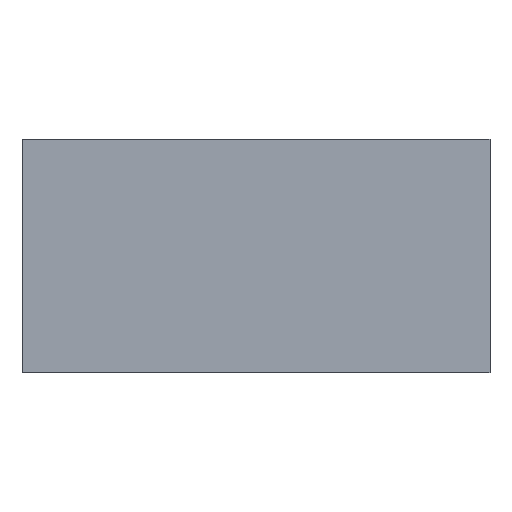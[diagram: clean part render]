
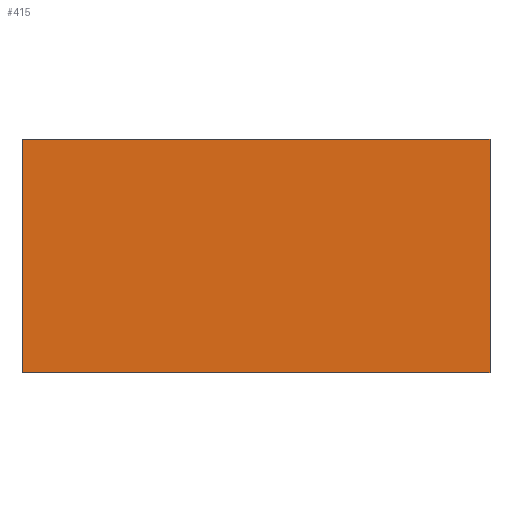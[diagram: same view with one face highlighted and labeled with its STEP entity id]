
A CAD part, front view. The second image highlights one B-rep face of the part: STEP entity #415.
In plain terms, the highlighted planar face has unit normal (0, -1, 0).
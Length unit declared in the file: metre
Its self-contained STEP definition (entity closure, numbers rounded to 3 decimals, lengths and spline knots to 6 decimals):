
#46=LINE('',#676,#82);
#48=LINE('',#680,#84);
#49=LINE('',#682,#85);
#50=LINE('',#684,#86);
#82=VECTOR('',#547,1.);
#84=VECTOR('',#551,1.);
#85=VECTOR('',#552,1.);
#86=VECTOR('',#553,1.);
#138=ORIENTED_EDGE('',*,*,#242,.T.);
#139=ORIENTED_EDGE('',*,*,#243,.F.);
#140=ORIENTED_EDGE('',*,*,#244,.F.);
#141=ORIENTED_EDGE('',*,*,#240,.T.);
#240=EDGE_CURVE('',#289,#288,#46,.T.);
#242=EDGE_CURVE('',#288,#290,#48,.T.);
#243=EDGE_CURVE('',#291,#290,#49,.T.);
#244=EDGE_CURVE('',#289,#291,#50,.T.);
#288=VERTEX_POINT('',#675);
#289=VERTEX_POINT('',#677);
#290=VERTEX_POINT('',#681);
#291=VERTEX_POINT('',#683);
#333=EDGE_LOOP('',(#138,#139,#140,#141));
#369=FACE_BOUND('',#333,.T.);
#400=PLANE('',#460);
#415=ADVANCED_FACE('',(#369),#400,.F.);
#460=AXIS2_PLACEMENT_3D('',#679,#549,#550);
#547=DIRECTION('',(0.,0.,-1.));
#549=DIRECTION('',(0.,1.,0.));
#550=DIRECTION('',(0.,0.,1.));
#551=DIRECTION('',(1.,0.,0.));
#552=DIRECTION('',(0.,0.,-1.));
#553=DIRECTION('',(1.,0.,0.));
#675=CARTESIAN_POINT('',(0.,0.,0.));
#676=CARTESIAN_POINT('',(0.,0.,0.006));
#677=CARTESIAN_POINT('',(0.,0.,0.006));
#679=CARTESIAN_POINT('',(0.006,0.,0.006));
#680=CARTESIAN_POINT('',(0.006,0.,0.));
#681=CARTESIAN_POINT('',(0.012,0.,0.));
#682=CARTESIAN_POINT('',(0.012,0.,0.006));
#683=CARTESIAN_POINT('',(0.012,0.,0.006));
#684=CARTESIAN_POINT('',(0.006,0.,0.006));
